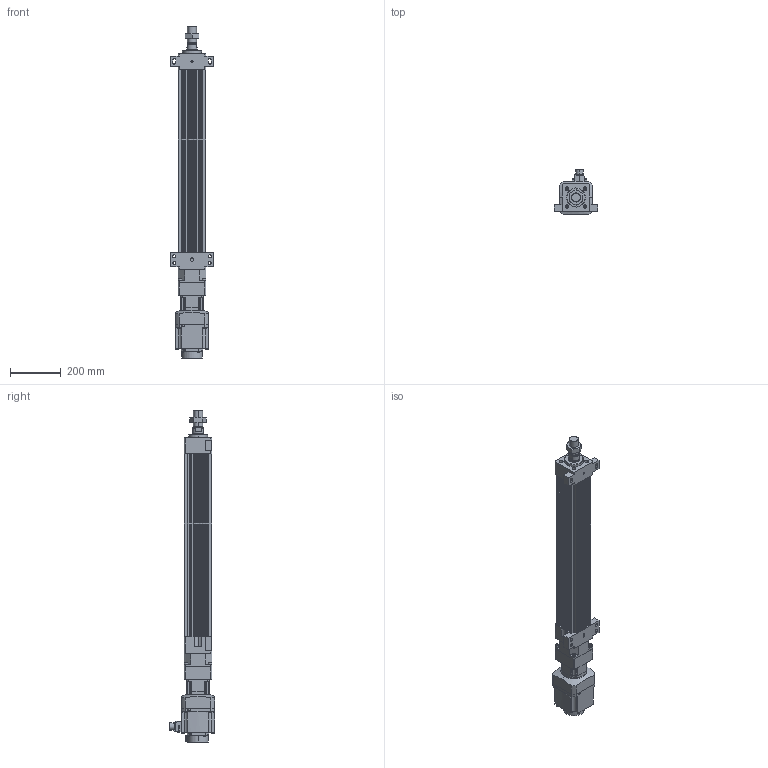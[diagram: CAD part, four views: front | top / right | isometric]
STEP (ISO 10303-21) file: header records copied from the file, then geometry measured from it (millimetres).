
FILE_DESCRIPTION (( 'STEP AP203' ), '1' );
FILE_NAME ('HES110NS(HS)-S550-W010G00-M-FFB.STEP', '2023-01-27T05:57:31', ( 'tms' ), ( '' ), 'SwSTEP 2.0', 'SolidWorks 2013', '' );
FILE_SCHEMA (( 'CONFIG_CONTROL_DESIGN' ));
Length unit declared in the file: millimetre
Products named in the file (8): HES110NS(HS)-S550-W010G00-M-FFB; HES110-S550-G090-FFB; HG-SR102; M36X1.5P; P0401301004; AB090-003[HG-SR102B]; HES110 ROD M ST550; AB0901
Assembly tree (7 placements, depth 3):
  HES110NS(HS)-S550-W010G00-M-FFB
    HES110-S550-G090-FFB
    HES110 ROD M ST550
    M36X1.5P
    AB090-003[HG-SR102B]
      AB0901
      P0401301004
    HG-SR102
Bounding box: 170 x 177.49 x 1308.5 mm (x, y, z)
Volume: 8488467.6 mm3; surface area: 1175579.1 mm2
Topology: 4 solids, 15 shells, 1189 faces, 3015 edges, 1964 vertices
Faces by surface type: plane 570, cylinder 529, cone 78, bspline 8, torus 4
Entity records: 37852 total; most frequent: CARTESIAN_POINT 7358, DIRECTION 6498, ORIENTED_EDGE 5982, EDGE_CURVE 3001, AXIS2_PLACEMENT_3D 2375, VERTEX_POINT 1964, VECTOR 1748, LINE 1748
